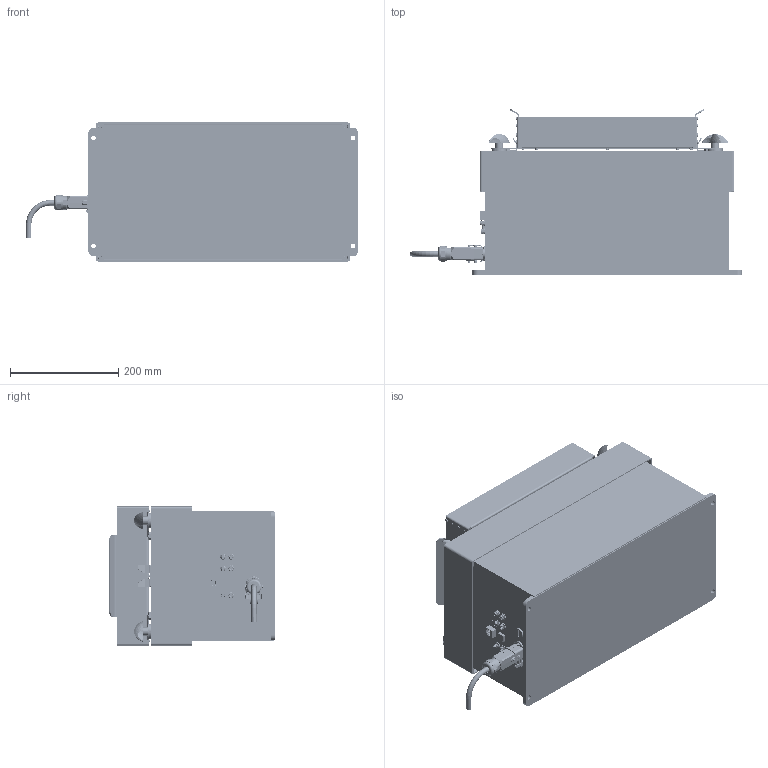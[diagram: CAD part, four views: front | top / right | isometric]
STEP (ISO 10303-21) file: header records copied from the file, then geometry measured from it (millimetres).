
FILE_DESCRIPTION (( 'STEP AP214' ), '1' );
FILE_NAME ('Asyril_ASYCUBE 380.STEP', '2020-05-06T07:57:22', ( 'Standard' ), ( '' ), 'SwSTEP 2.0', 'SolidWorks 2017', '' );
FILE_SCHEMA (( 'AUTOMOTIVE_DESIGN' ));
Length unit declared in the file: millimetre
Products named in the file (5): Asyril_HAN 3A 5P 5m POWER CABLE_000.103.271_(option); Asyril_FLAT VIBRATING PLATE (POM-C) - 380_000.102.555_(option); Asyril_PLATFORM FRAME H=60mm - 380_000.102.641_(option); Asyril_ASYCUBE 380_XXX.XXX.XXX; Asyril_ASYCUBE 380
Assembly tree (4 placements, depth 2):
  Asyril_ASYCUBE 380
    Asyril_ASYCUBE 380_XXX.XXX.XXX
    Asyril_PLATFORM FRAME H=60mm - 380_000.102.641_(option)
    Asyril_FLAT VIBRATING PLATE (POM-C) - 380_000.102.555_(option)
    Asyril_HAN 3A 5P 5m POWER CABLE_000.103.271_(option)
Bounding box: 613.7 x 306.61 x 257 mm (x, y, z)
Volume: 16083622.4 mm3; surface area: 1310253.3 mm2
Topology: 415 solids, 420 shells, 18216 faces, 45782 edges, 28507 vertices
Faces by surface type: plane 9846, cylinder 5202, bspline 1991, torus 633, cone 536, sphere 8
Entity records: 706242 total; most frequent: CARTESIAN_POINT 239750, ORIENTED_EDGE 90312, DIRECTION 80355, EDGE_CURVE 45156, VECTOR 29441, LINE 29441, VERTEX_POINT 28507, AXIS2_PLACEMENT_3D 25457
